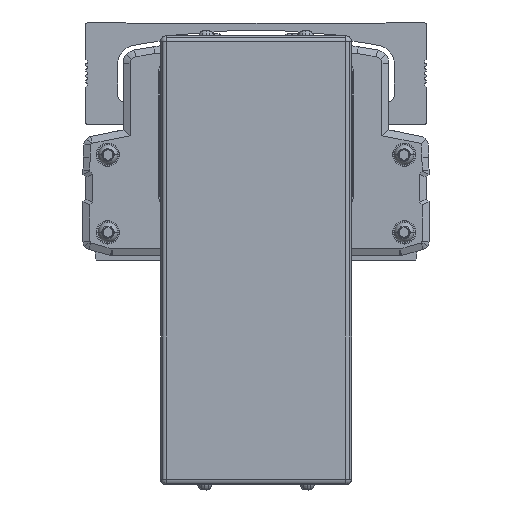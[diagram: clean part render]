
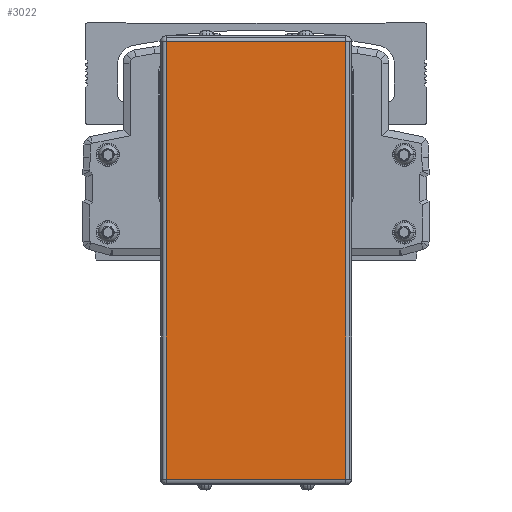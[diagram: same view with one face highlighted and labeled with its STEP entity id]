
A CAD part, front view. The second image highlights one B-rep face of the part: STEP entity #3022.
In plain terms, the highlighted planar face has unit normal (0, -1, 0).
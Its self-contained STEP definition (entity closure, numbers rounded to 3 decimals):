
#3022=ADVANCED_FACE('',(#7718),#7719,.T.);
#7718=FACE_OUTER_BOUND('',#14557,.T.);
#7719=PLANE('',#14558);
#14557=EDGE_LOOP('',(#24391,#24392,#24393,#24394));
#14558=AXIS2_PLACEMENT_3D('',#24395,#24396,#24397);
#24391=ORIENTED_EDGE('',*,*,#42473,.F.);
#24392=ORIENTED_EDGE('',*,*,#42021,.F.);
#24393=ORIENTED_EDGE('',*,*,#42474,.F.);
#24394=ORIENTED_EDGE('',*,*,#42475,.F.);
#24395=CARTESIAN_POINT('',(-299.996,-188.778,-49.1));
#24396=DIRECTION('',(0.,-1.0,0.));
#24397=DIRECTION('',(1.0,0.,0.));
#42021=EDGE_CURVE('',#50590,#50592,#50593,.T.);
#42473=EDGE_CURVE('',#50592,#51351,#51352,.T.);
#42474=EDGE_CURVE('',#51353,#50590,#51354,.T.);
#42475=EDGE_CURVE('',#51351,#51353,#51355,.T.);
#50590=VERTEX_POINT('',#62742);
#50592=VERTEX_POINT('',#62744);
#50593=LINE('',#62745,#62746);
#51351=VERTEX_POINT('',#63739);
#51352=LINE('',#63740,#63741);
#51353=VERTEX_POINT('',#63742);
#51354=LINE('',#63743,#63744);
#51355=LINE('',#63745,#63746);
#62742=CARTESIAN_POINT('',(-332.496,-188.778,30.));
#62744=CARTESIAN_POINT('',(-267.496,-188.778,30.));
#62745=CARTESIAN_POINT('',(-299.996,-188.778,30.));
#62746=VECTOR('',#77404,10.0);
#63739=CARTESIAN_POINT('',(-267.496,-188.778,-128.2));
#63740=CARTESIAN_POINT('',(-267.496,-188.778,-49.1));
#63741=VECTOR('',#78108,10.0);
#63742=CARTESIAN_POINT('',(-332.496,-188.778,-128.2));
#63743=CARTESIAN_POINT('',(-332.496,-188.778,-49.1));
#63744=VECTOR('',#78109,10.0);
#63745=CARTESIAN_POINT('',(-299.996,-188.778,-128.2));
#63746=VECTOR('',#78110,10.0);
#77404=DIRECTION('',(1.0,0.,0.));
#78108=DIRECTION('',(0.0,0.,-1.0));
#78109=DIRECTION('',(0.0,0.,1.0));
#78110=DIRECTION('',(-1.0,0.,0.));
